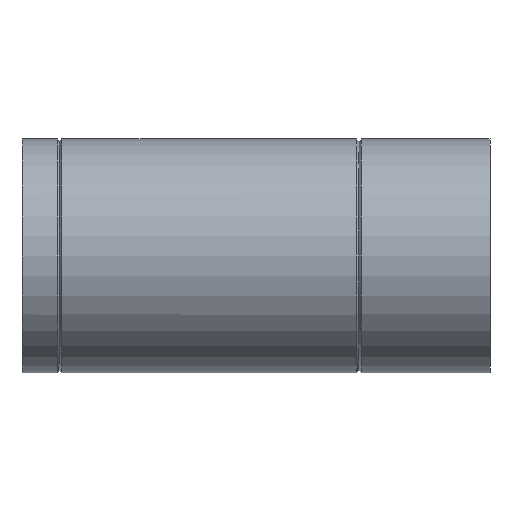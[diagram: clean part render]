
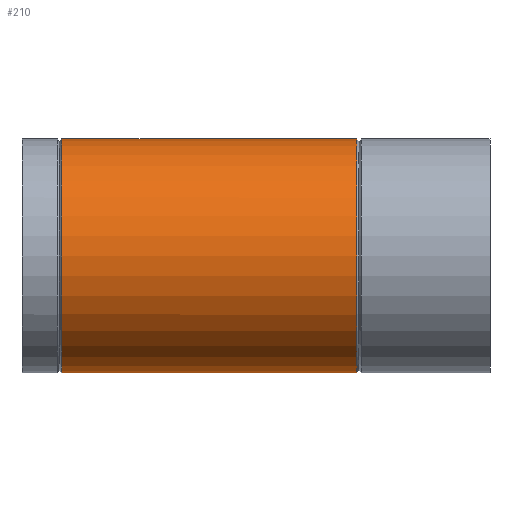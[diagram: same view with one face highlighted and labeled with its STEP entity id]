
A CAD part, left-side view. The second image highlights one B-rep face of the part: STEP entity #210.
In plain terms, the highlighted cylindrical face has radius 62.5 mm (diameter 125 mm), a full revolution.
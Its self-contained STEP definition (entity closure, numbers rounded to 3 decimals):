
#15=ELLIPSE($,#234,87.254,62.5);
#16=ELLIPSE($,#235,89.568,62.5);
#19=CYLINDRICAL_SURFACE($,#232,62.5);
#28=FACE_BOUND($,#65,.T.);
#29=FACE_BOUND($,#66,.T.);
#50=FACE_OUTER_BOUND($,#64,.T.);
#64=EDGE_LOOP($,(#151));
#65=EDGE_LOOP($,(#152,#153));
#66=EDGE_LOOP($,(#154));
#96=CIRCLE($,#231,62.5);
#97=CIRCLE($,#233,62.5);
#111=VERTEX_POINT($,#341);
#112=VERTEX_POINT($,#344);
#113=VERTEX_POINT($,#346);
#114=VERTEX_POINT($,#347);
#130=EDGE_CURVE($,#111,#111,#96,.T.);
#131=EDGE_CURVE($,#112,#112,#97,.T.);
#132=EDGE_CURVE($,#113,#114,#15,.T.);
#133=EDGE_CURVE($,#114,#113,#16,.T.);
#151=ORIENTED_EDGE($,*,*,#131,.T.);
#152=ORIENTED_EDGE($,*,*,#132,.T.);
#153=ORIENTED_EDGE($,*,*,#133,.T.);
#154=ORIENTED_EDGE($,*,*,#130,.T.);
#210=ADVANCED_FACE($,(#50,#28,#29),#19,.T.);
#231=AXIS2_PLACEMENT_3D($,#342,#272,#273);
#232=AXIS2_PLACEMENT_3D($,#343,#274,#275);
#233=AXIS2_PLACEMENT_3D($,#345,#276,#277);
#234=AXIS2_PLACEMENT_3D($,#348,#278,#279);
#235=AXIS2_PLACEMENT_3D($,#349,#280,#281);
#272=DIRECTION('center_axis',(0.,-1.,0.));
#273=DIRECTION('ref_axis',(1.,0.,0.));
#274=DIRECTION('center_axis',(0.,1.,0.));
#275=DIRECTION('ref_axis',(1.,0.,0.));
#276=DIRECTION('center_axis',(0.,1.,0.));
#277=DIRECTION('ref_axis',(1.,0.,0.));
#278=DIRECTION('center_axis',(-0.698,-0.716,0.));
#279=DIRECTION('ref_axis',(0.716,-0.698,0.));
#280=DIRECTION('center_axis',(-0.716,0.698,0.));
#281=DIRECTION('ref_axis',(-0.698,-0.716,0.));
#341=CARTESIAN_POINT('',(62.5,228.75,0.));
#342=CARTESIAN_POINT('Origin',(0.,228.75,0.));
#343=CARTESIAN_POINT('Origin',(0.,0.,0.));
#344=CARTESIAN_POINT('',(-62.5,71.25,0.));
#345=CARTESIAN_POINT('Origin',(0.,71.25,0.));
#346=CARTESIAN_POINT('',(0.,150.,-62.5));
#347=CARTESIAN_POINT('',(0.,150.,62.5));
#348=CARTESIAN_POINT('Origin',(0.,150.,0.));
#349=CARTESIAN_POINT('Origin',(0.,150.,0.));
